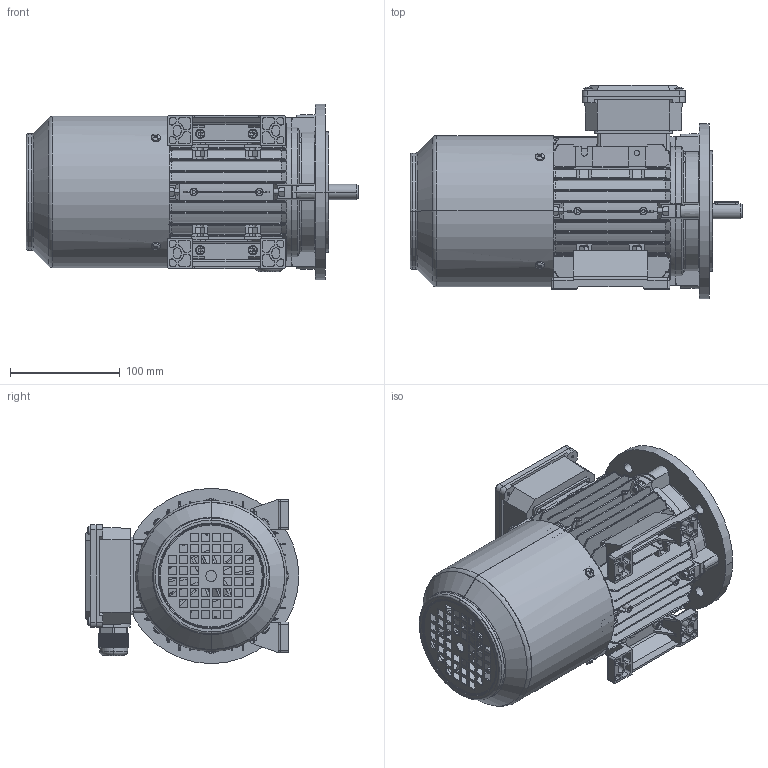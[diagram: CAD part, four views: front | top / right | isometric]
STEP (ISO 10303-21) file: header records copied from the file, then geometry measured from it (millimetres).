
FILE_DESCRIPTION (( 'STEP AP203' ), '1' );
FILE_NAME ('TB71 B35（风罩不带手柄孔）.STEP', '2021-10-21T02:27:17', ( '' ), ( '' ), 'SwSTEP 2.0', 'SolidWorks 2014', '' );
FILE_SCHEMA (( 'CONFIG_CONTROL_DESIGN' ));
Length unit declared in the file: millimetre
Products named in the file (17): Hexagon nuts grade C GB_GB_FASTENER_NUT_SNC1 M5-N; TB71瑞欶(祥湍忒梟謂); TB71蛌粣; Hexagon socket head cap screws GB_GB_FASTENER_SCREWS_HSHCS M5X20-N; MS63-71 陔諉盄碟釱; TB71 綴裔; TAN71 儂褲; Hexagon socket head cap screws GB_GB_FASTENER_SCREWS_HSHCS M5X25-N; TB71 B35（风罩不带手柄孔）; 80-100堤盄蹟杶; Hexagon socket head cap screws GB_GB_FASTENER_SCREWS_HSHCS M5X16-N; MS63-71 陔諉盄碟裔; 71怢宒瑞珔; TAN71 菁褐; Cross recessed thread forming screws GB_GB_CROSS_SCREWS_TYPE138 M4X10-N; TAN71 B5裔; Plain parallel keys_GB_CONNECTING_PIECE_KEYS_CSK 5X22
Assembly tree (45 placements, depth 2):
  TB71 B35（风罩不带手柄孔）
    TAN71 儂褲
    TAN71 菁褐  x2
    TB71蛌粣
    80-100堤盄蹟杶
    TAN71 B5裔
    MS63-71 陔諉盄碟釱
    MS63-71 陔諉盄碟裔
    Hexagon nuts grade C GB_GB_FASTENER_NUT_SNC1 M5-N  x12
    Hexagon socket head cap screws GB_GB_FASTENER_SCREWS_HSHCS M5X25-N  x8
    Cross recessed thread forming screws GB_GB_CROSS_SCREWS_TYPE138 M4X10-N  x8
    Hexagon socket head cap screws GB_GB_FASTENER_SCREWS_HSHCS M5X20-N
    Hexagon socket head cap screws GB_GB_FASTENER_SCREWS_HSHCS M5X16-N  x4
    Plain parallel keys_GB_CONNECTING_PIECE_KEYS_CSK 5X22
    TB71 綴裔
    71怢宒瑞珔
    TB71瑞欶(祥湍忒梟謂)
Bounding box: 303 x 195 x 160 mm (x, y, z)
Volume: 797169.9 mm3; surface area: 613698.9 mm2
Topology: 45 solids, 45 shells, 4625 faces, 11944 edges, 7458 vertices
Faces by surface type: plane 2217, cylinder 1211, bspline 528, cone 407, torus 226, sphere 36
Entity records: 137024 total; most frequent: CARTESIAN_POINT 43617, ORIENTED_EDGE 20222, DIRECTION 17498, EDGE_CURVE 10111, VERTEX_POINT 6344, AXIS2_PLACEMENT_3D 6184, VECTOR 5130, LINE 5130
